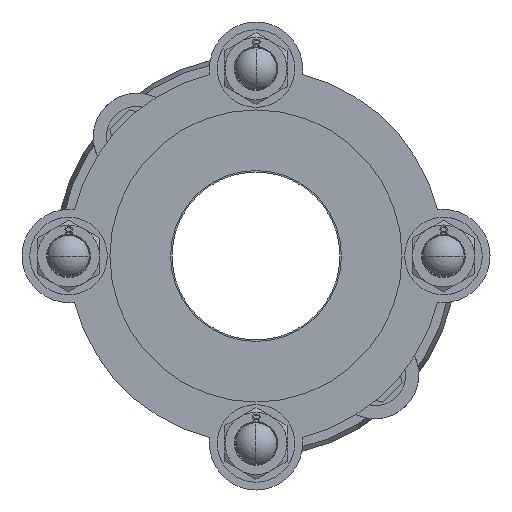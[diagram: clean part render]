
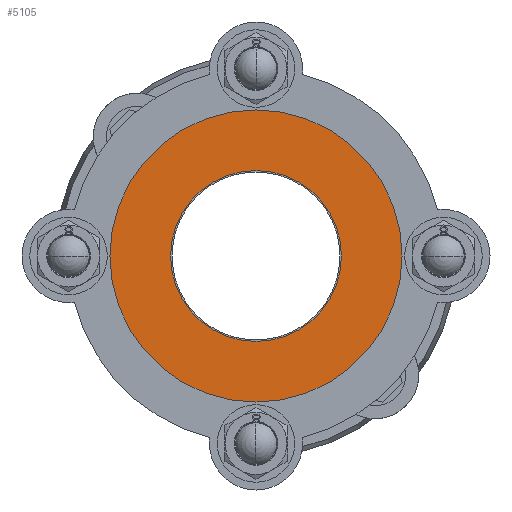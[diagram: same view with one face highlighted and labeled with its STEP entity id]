
A CAD part, front view. The second image highlights one B-rep face of the part: STEP entity #5105.
In plain terms, the highlighted planar face has unit normal (0, -1, 0) as drawn and (0, 1, 0) by its records, which use the part's own axes.
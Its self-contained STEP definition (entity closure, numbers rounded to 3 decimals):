
#4214=CARTESIAN_POINT('',(0.,0.,0.));
#4215=DIRECTION('',(0.,1.,0.));
#4216=DIRECTION('',(-1.,0.,0.));
#4217=AXIS2_PLACEMENT_3D('',#4214,#4215,#4216);
#4233=CARTESIAN_POINT('',(0.,0.,0.));
#4234=DIRECTION('',(0.,-1.,0.));
#4235=DIRECTION('',(-1.,0.,0.));
#4236=AXIS2_PLACEMENT_3D('',#4233,#4234,#4235);
#4242=CARTESIAN_POINT('',(0.,0.,0.));
#4243=DIRECTION('',(0.,-1.,0.));
#4244=DIRECTION('',(0.,0.,-1.));
#4245=AXIS2_PLACEMENT_3D('',#4242,#4243,#4244);
#4247=CARTESIAN_POINT('',(0.,0.,0.));
#4248=DIRECTION('',(0.,-1.,0.));
#4249=DIRECTION('',(-1.,0.,0.));
#4250=AXIS2_PLACEMENT_3D('',#4247,#4248,#4249);
#4612=CARTESIAN_POINT('',(-33.05,0.,0.));
#4614=VERTEX_POINT('',#4612);
#4616=CARTESIAN_POINT('',(0.,0.,-33.05));
#4618=VERTEX_POINT('',#4616);
#4684=CARTESIAN_POINT('',(-56.5,0.,0.));
#4686=VERTEX_POINT('',#4684);
#4688=CARTESIAN_POINT('',(0.,0.,-56.5));
#4690=VERTEX_POINT('',#4688);
#5090=CARTESIAN_POINT('',(0.,0.,0.));
#5091=DIRECTION('',(0.,-1.,0.));
#5092=DIRECTION('',(0.,0.,1.));
#5093=AXIS2_PLACEMENT_3D('',#5090,#5091,#5092);
#5094=PLANE('',#5093);
#5095=ORIENTED_EDGE('',*,*,#5069,.F.);
#5096=ORIENTED_EDGE('',*,*,#5085,.T.);
#5097=EDGE_LOOP('',(#5095,#5096));
#5098=FACE_OUTER_BOUND('',#5097,.F.);
#5100=ORIENTED_EDGE('',*,*,#5099,.F.);
#5102=ORIENTED_EDGE('',*,*,#5101,.F.);
#5103=EDGE_LOOP('',(#5100,#5102));
#5104=FACE_BOUND('',#5103,.F.);
#5105=ADVANCED_FACE('',(#5098,#5104),#5094,.F.);
#4218=CIRCLE('',#4217,56.5);
#4237=CIRCLE('',#4236,56.5);
#4246=CIRCLE('',#4245,33.05);
#4251=CIRCLE('',#4250,33.05);
#5069=EDGE_CURVE('',#4686,#4690,#4218,.T.);
#5085=EDGE_CURVE('',#4686,#4690,#4237,.T.);
#5099=EDGE_CURVE('',#4618,#4614,#4246,.T.);
#5101=EDGE_CURVE('',#4614,#4618,#4251,.T.);
